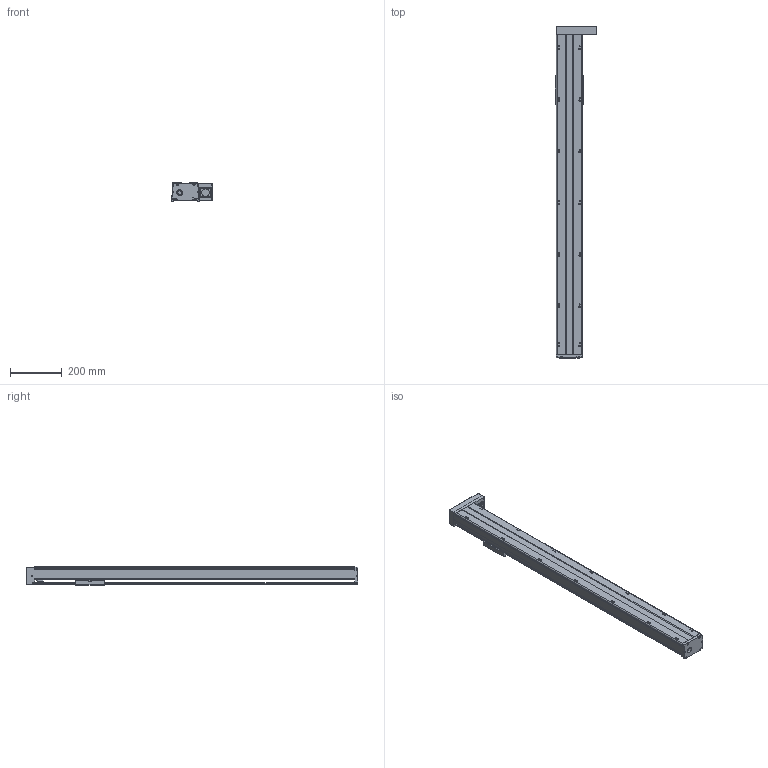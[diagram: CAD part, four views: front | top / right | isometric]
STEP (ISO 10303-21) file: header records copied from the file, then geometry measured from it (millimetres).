
FILE_DESCRIPTION(/* description */ (''),/* implementation_level */ '2;1');
FILE_NAME(/* name */ 'TKA100-FR-1050_asm1.stp',/* time_stamp */ '2016-08-25T15:19:11+08:00',/* author */ (''),/* organization */ (''),/* preprocessor_version */ 'ST-DEVELOPER v15',/* originating_system */ 'SIEMENS PLM Software NX 8.5',/* authorisation */ '');
FILE_SCHEMA (('AUTOMOTIVE_DESIGN { 1 0 10303 214 3 1 1 1 }'));
Length unit declared in the file: millimetre
Products named in the file (3): 200-2; 200-1; TKA100-FR-1050_asm1
Assembly tree (2 placements, depth 2):
  TKA100-FR-1050_asm1
    200-1
    200-2
Bounding box: 162 x 1286 x 71 mm (x, y, z)
Volume: 2618796.3 mm3; surface area: 891606 mm2
Topology: 2 solids, 16 shells, 818 faces, 2136 edges, 1395 vertices
Faces by surface type: plane 326, cylinder 313, cone 125, torus 28, bspline 26
Full cylindrical faces by diameter (mm): 2.5 x6, 2.6 x8, 3.3 x11, 3.4 x4, 3.8 x8, 4.2 x23, 4.3 x4, 4.5 x6, 5 x2, 5.5 x22, 6.6 x4, 8 x4, 9 x6, 10 x15, 11 x4, 12 x6, 15.3 x1, 16 x1, 22 x1, 24 x1, 28 x2, 30 x1, 33 x1
Entity records: 29638 total; most frequent: CARTESIAN_POINT 10738, DIRECTION 3879, ORIENTED_EDGE 3648, EDGE_CURVE 1824, AXIS2_PLACEMENT_3D 1539, VERTEX_POINT 1302, EDGE_LOOP 1141, ADVANCED_FACE 818
